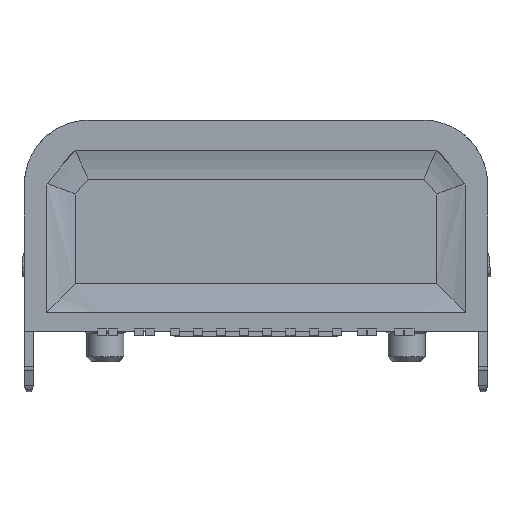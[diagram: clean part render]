
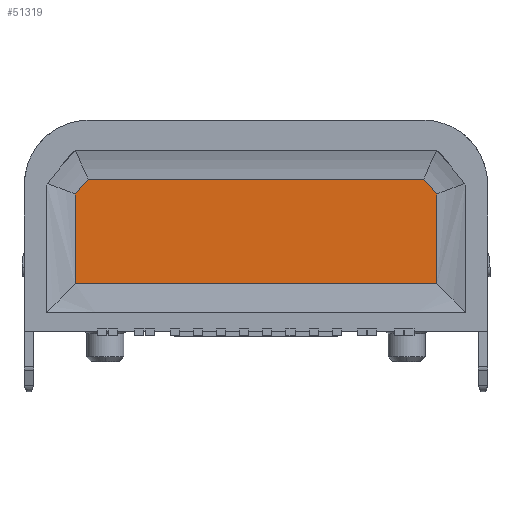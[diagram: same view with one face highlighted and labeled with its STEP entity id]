
A CAD part, top view. The second image highlights one B-rep face of the part: STEP entity #51319.
In plain terms, the highlighted free-form (B-spline) face has degree [1, 1] with [2, 2] control points.
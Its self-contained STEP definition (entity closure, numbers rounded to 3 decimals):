
#2242 = CARTESIAN_POINT ( 'NONE',  ( 3.906, -1.181, 1.34 ) ) ;
#5644 = ORIENTED_EDGE ( 'NONE', *, *, #25804, .F. ) ;
#7428 = FACE_OUTER_BOUND ( 'NONE', #10424, .T. ) ;
#7687 = B_SPLINE_CURVE_WITH_KNOTS ( 'NONE', 1,
 ( #2242, #45740 ),
 .UNSPECIFIED., .F., .F.,
 ( 2, 2 ),
 ( 0., 1. ),
 .UNSPECIFIED. ) ;
#10424 = EDGE_LOOP ( 'NONE', ( #35579, #5644, #10758, #51774, #32404, #43106 ) ) ;
#10731 = CARTESIAN_POINT ( 'NONE',  ( -3.896, -1.181, 1.34 ) ) ;
#10758 = ORIENTED_EDGE ( 'NONE', *, *, #47634, .F. ) ;
#15248 = CARTESIAN_POINT ( 'NONE',  ( 3.906, -1.181, 1.34 ) ) ;
#15925 = B_SPLINE_SURFACE_WITH_KNOTS ( 'NONE', 1, 1, ( 
 ( #16256, #20406 ),
 ( #54034, #49628 ) ),
 .UNSPECIFIED., .F., .F., .F.,
 ( 2, 2 ),
 ( 2, 2 ),
 ( -4.057, 4.057 ),
 ( -1.163, 1.189 ),
 .UNSPECIFIED. ) ;
#16256 = CARTESIAN_POINT ( 'NONE',  ( -4.052, -1.226, 1.34 ) ) ;
#17416 = VERTEX_POINT ( 'NONE', #46256 ) ;
#19871 = EDGE_CURVE ( 'NONE', #49847, #45333, #33464, .T. ) ;
#20406 = CARTESIAN_POINT ( 'NONE',  ( -4.052, 1.126, 1.34 ) ) ;
#22386 = CARTESIAN_POINT ( 'NONE',  ( 3.623, 1.081, 1.34 ) ) ;
#25804 = EDGE_CURVE ( 'NONE', #31341, #54216, #35794, .T. ) ;
#26187 = EDGE_CURVE ( 'NONE', #45333, #17416, #30519, .T. ) ;
#26712 = CARTESIAN_POINT ( 'NONE',  ( 3.906, -1.181, 1.34 ) ) ;
#28214 = EDGE_CURVE ( 'NONE', #29682, #49847, #7687, .T. ) ;
#29682 = VERTEX_POINT ( 'NONE', #26712 ) ;
#30519 = B_SPLINE_CURVE_WITH_KNOTS ( 'NONE', 1,
 ( #35525, #47920 ),
 .UNSPECIFIED., .F., .F.,
 ( 2, 2 ),
 ( 0., 1. ),
 .UNSPECIFIED. ) ;
#31218 = CARTESIAN_POINT ( 'NONE',  ( 3.906, 0.759, 1.34 ) ) ;
#31341 = VERTEX_POINT ( 'NONE', #36334 ) ;
#32404 = ORIENTED_EDGE ( 'NONE', *, *, #19871, .F. ) ;
#33464 = B_SPLINE_CURVE_WITH_KNOTS ( 'NONE', 1,
 ( #45145, #22386 ),
 .UNSPECIFIED., .F., .F.,
 ( 2, 2 ),
 ( 0., 1. ),
 .UNSPECIFIED. ) ;
#35248 = B_SPLINE_CURVE_WITH_KNOTS ( 'NONE', 1,
 ( #35399, #15248 ),
 .UNSPECIFIED., .F., .F.,
 ( 2, 2 ),
 ( 0., 1. ),
 .UNSPECIFIED. ) ;
#35399 = CARTESIAN_POINT ( 'NONE',  ( -3.896, -1.181, 1.34 ) ) ;
#35525 = CARTESIAN_POINT ( 'NONE',  ( 3.623, 1.081, 1.34 ) ) ;
#35531 = CARTESIAN_POINT ( 'NONE',  ( -3.896, 0.759, 1.34 ) ) ;
#35579 = ORIENTED_EDGE ( 'NONE', *, *, #35942, .F. ) ;
#35794 = B_SPLINE_CURVE_WITH_KNOTS ( 'NONE', 1,
 ( #36134, #10731 ),
 .UNSPECIFIED., .F., .F.,
 ( 2, 2 ),
 ( 0., 1. ),
 .UNSPECIFIED. ) ;
#35942 = EDGE_CURVE ( 'NONE', #54216, #29682, #35248, .T. ) ;
#36134 = CARTESIAN_POINT ( 'NONE',  ( -3.896, 0.759, 1.34 ) ) ;
#36334 = CARTESIAN_POINT ( 'NONE',  ( -3.896, 0.759, 1.34 ) ) ;
#37234 = CARTESIAN_POINT ( 'NONE',  ( -3.896, -1.181, 1.34 ) ) ;
#40817 = B_SPLINE_CURVE_WITH_KNOTS ( 'NONE', 1,
 ( #43791, #35531 ),
 .UNSPECIFIED., .F., .F.,
 ( 2, 2 ),
 ( 0., 1. ),
 .UNSPECIFIED. ) ;
#43106 = ORIENTED_EDGE ( 'NONE', *, *, #28214, .F. ) ;
#43791 = CARTESIAN_POINT ( 'NONE',  ( -3.613, 1.081, 1.34 ) ) ;
#45145 = CARTESIAN_POINT ( 'NONE',  ( 3.906, 0.759, 1.34 ) ) ;
#45333 = VERTEX_POINT ( 'NONE', #48288 ) ;
#45740 = CARTESIAN_POINT ( 'NONE',  ( 3.906, 0.759, 1.34 ) ) ;
#46256 = CARTESIAN_POINT ( 'NONE',  ( -3.613, 1.081, 1.34 ) ) ;
#47634 = EDGE_CURVE ( 'NONE', #17416, #31341, #40817, .T. ) ;
#47920 = CARTESIAN_POINT ( 'NONE',  ( -3.613, 1.081, 1.34 ) ) ;
#48288 = CARTESIAN_POINT ( 'NONE',  ( 3.623, 1.081, 1.34 ) ) ;
#49628 = CARTESIAN_POINT ( 'NONE',  ( 4.062, 1.126, 1.34 ) ) ;
#49847 = VERTEX_POINT ( 'NONE', #31218 ) ;
#51319 = ADVANCED_FACE ( 'NONE', ( #7428 ), #15925, .F. ) ;
#51774 = ORIENTED_EDGE ( 'NONE', *, *, #26187, .F. ) ;
#54034 = CARTESIAN_POINT ( 'NONE',  ( 4.062, -1.226, 1.34 ) ) ;
#54216 = VERTEX_POINT ( 'NONE', #37234 ) ;
